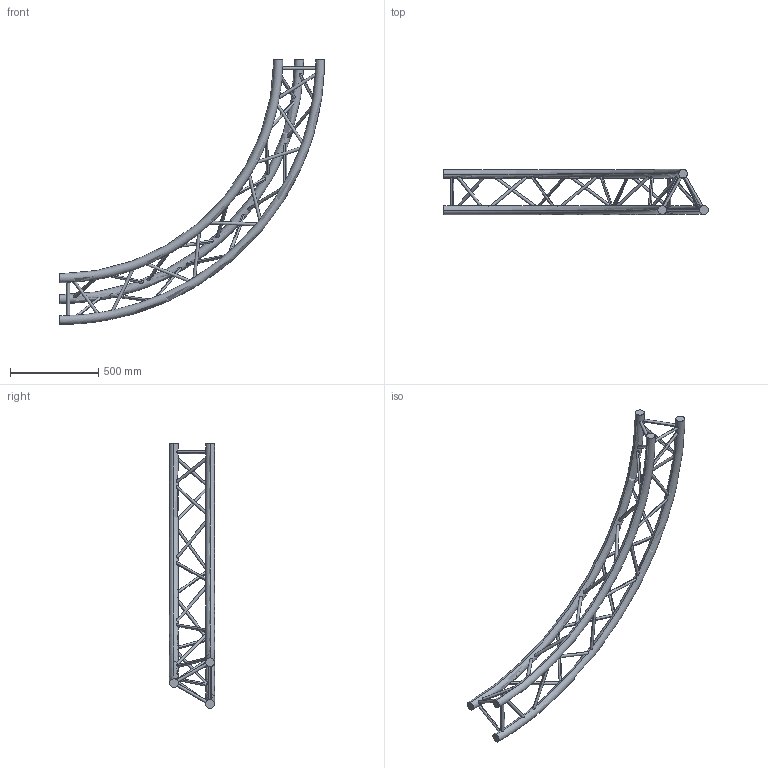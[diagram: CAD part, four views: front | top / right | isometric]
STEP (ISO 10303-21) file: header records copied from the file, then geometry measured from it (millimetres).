
FILE_DESCRIPTION (( 'STEP AP203' ), '1' );
FILE_NAME ('SXC29300PH.STEP', '2009-10-21T08:24:35', ( 'CEDIA' ), ( 'CEDIA INDUSTRIE' ), 'SwSTEP 2.0', 'SolidWorks 2009', '' );
FILE_SCHEMA (( 'CONFIG_CONTROL_DESIGN' ));
Length unit declared in the file: millimetre
Products named in the file (1): SXC29300PH
Bounding box: 1500 x 255.25 x 1500 mm (x, y, z)
Volume: 14159579.2 mm3; surface area: 1401845.4 mm2
Topology: 1 solids, 1 shells, 78 faces, 247 edges, 150 vertices
Faces by surface type: cylinder 66, torus 6, plane 6
Entity records: 8591 total; most frequent: CARTESIAN_POINT 6492, ORIENTED_EDGE 494, DIRECTION 304, EDGE_CURVE 247, VERTEX_POINT 150, B_SPLINE_CURVE_WITH_KNOTS 138, EDGE_LOOP 119, AXIS2_PLACEMENT_3D 119
